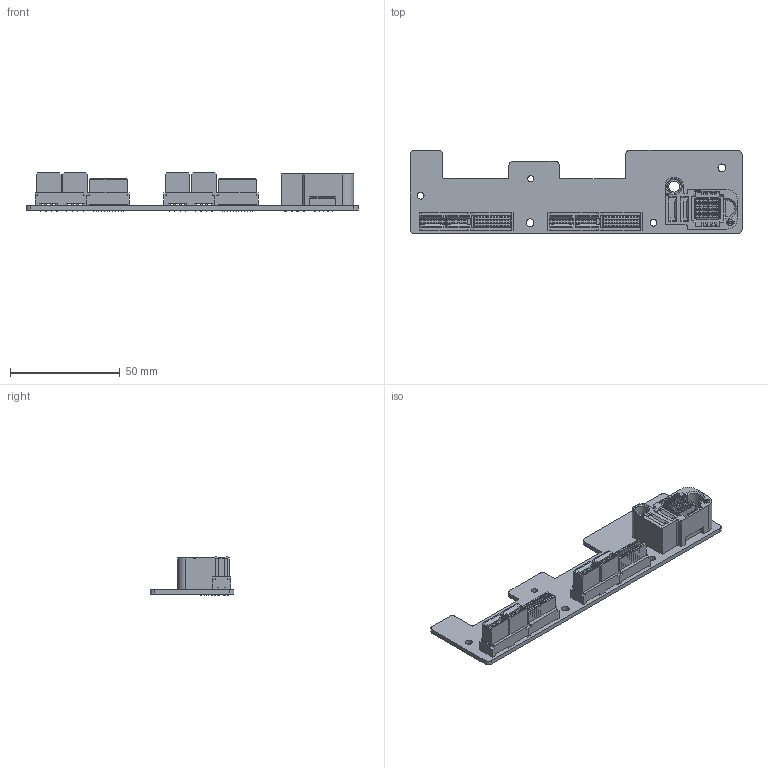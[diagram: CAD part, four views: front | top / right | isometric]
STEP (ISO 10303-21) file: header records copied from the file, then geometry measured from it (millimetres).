
FILE_DESCRIPTION((''),'2;1');
FILE_NAME('05_PSU_PCB_ASM_CSGR_ASM','2019-02-13T',('calvi'),(''),'CREO PARAMETRIC BY PTC INC, 2015480','CREO PARAMETRIC BY PTC INC, 2015480','');
FILE_SCHEMA(('CONFIG_CONTROL_DESIGN'));
Products named in the file (4): PSU_BD_PCB_CSGR; 461144241; CM-46562-1044; 05_PSU_PCB_ASM_CSGR_ASM
Assembly tree (4 placements, depth 2):
  05_PSU_PCB_ASM_CSGR_ASM
    PSU_BD_PCB_CSGR
    461144241  x2
    CM-46562-1044
Bounding box: 151 x 38 x 18.04 mm (x, y, z)
Volume: 21106.9 mm3; surface area: 24626.6 mm2
Topology: 4 solids, 4 shells, 5286 faces, 15527 edges, 10403 vertices
Faces by surface type: plane 3489, cylinder 1022, bspline 564, torus 204, cone 7
Entity records: 168988 total; most frequent: CARTESIAN_POINT 51050, ORIENTED_EDGE 22190, DIRECTION 17467, EDGE_CURVE 11095, VERTEX_POINT 7365, VECTOR 7131, LINE 7131, PRESENTATION_STYLE_ASSIGNMENT 6722
